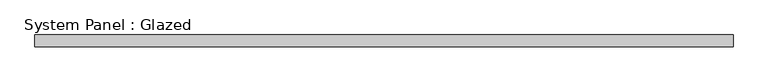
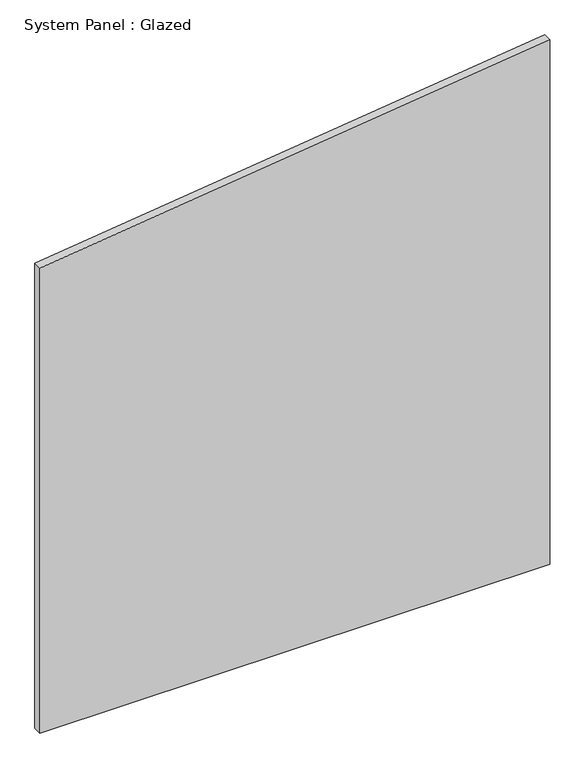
"""IFC4 building model written with IfcOpenShell, lengths in millimetres: plate geometry, System Panel : Glazed."""

from ifc_helpers import new_model, si_unit, frame, origin, place, context, project, spatial, polyline, outline, extrude, source, transform, mapped, element, save


def system_panel_glazed_0b7033eb(model_context):
    return source(origin(), model_context, "Body", "SweptSolid", [
        extrude(outline(polyline([(0.0, -726.9631579), (0.0, 726.9631579), (1580.3227776, 726.9631579), (1401.8030734, -726.9631579), (0.0, -726.9631579)])), frame((0.0, 24.5, 0.0), z_axis=(0.0, 1.0, 0.0), x_axis=(0.0, 0.0, 1.0)), (0.0, 0.0, 1.0), 25.0),
    ])


if __name__ == "__main__":
    model = new_model("IFC4")
    model_context = context("Model", 3, world=origin())
    ifc_project = project(units=[si_unit("LENGTHUNIT", "METRE", prefix="MILLI")], contexts=[model_context])
    site = spatial("IfcSite", under=ifc_project)
    building = spatial("IfcBuilding", under=site)
    placement = place(None, origin())
    system_panel_glazed_shape = system_panel_glazed_0b7033eb(model_context)
    element("IfcPlate", 1, ObjectType="System Panel : Glazed", at=placement, inside=building, context=model_context, shape_type="MappedRepresentation", body=[
        mapped(system_panel_glazed_shape, transform((0.0, 0.0, 0.0), x_axis=(1.0, 0.0, 0.0), y_axis=(0.0, 1.0, 0.0), z_axis=(0.0, 0.0, 1.0))),
    ])
    save(model, "model.ifc")
